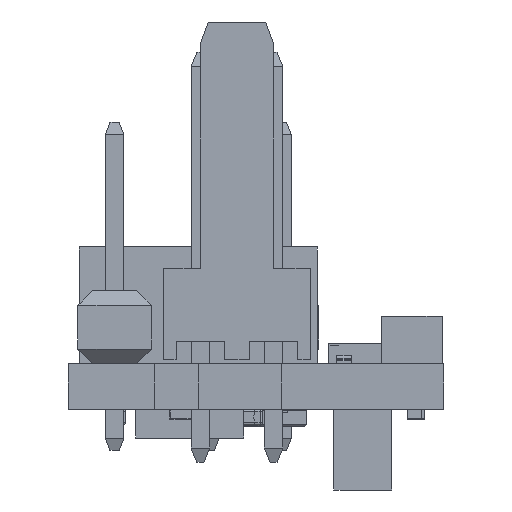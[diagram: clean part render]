
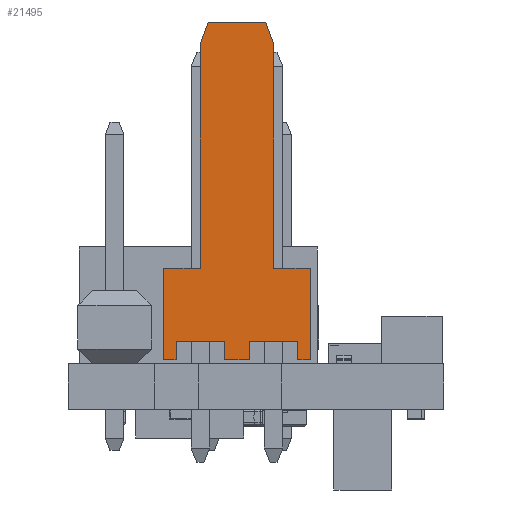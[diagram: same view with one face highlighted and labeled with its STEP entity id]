
A CAD part, left-side view. The second image highlights one B-rep face of the part: STEP entity #21495.
In plain terms, the highlighted planar face has unit normal (-1, 0, 0) as drawn and (0, -1, 0) by its records, which use the part's own axes.
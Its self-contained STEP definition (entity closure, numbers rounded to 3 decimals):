
#1213=PLANE('',#23291);
#2222=FACE_OUTER_BOUND('',#3688,.T.);
#3688=EDGE_LOOP('',(#16371,#16372,#16373,#16374,#16375,#16376,#16377,#16378,
#16379,#16380,#16381,#16382,#16383,#16384,#16385,#16386,#16387,#16388));
#5050=LINE('',#32688,#7144);
#5064=LINE('',#32716,#7158);
#5067=LINE('',#32721,#7161);
#5069=LINE('',#32725,#7163);
#5075=LINE('',#32738,#7169);
#5077=LINE('',#32742,#7171);
#5079=LINE('',#32746,#7173);
#5085=LINE('',#32757,#7179);
#5086=LINE('',#32759,#7180);
#5087=LINE('',#32761,#7181);
#5088=LINE('',#32763,#7182);
#5089=LINE('',#32765,#7183);
#5090=LINE('',#32767,#7184);
#5091=LINE('',#32769,#7185);
#5092=LINE('',#32771,#7186);
#5093=LINE('',#32772,#7187);
#5094=LINE('',#32774,#7188);
#5095=LINE('',#32775,#7189);
#7144=VECTOR('',#26505,3.16);
#7158=VECTOR('',#26523,0.64);
#7161=VECTOR('',#26528,0.43);
#7163=VECTOR('',#26532,0.86);
#7169=VECTOR('',#26540,0.43);
#7171=VECTOR('',#26544,0.64);
#7173=VECTOR('',#26548,1.68);
#7179=VECTOR('',#26556,0.64);
#7180=VECTOR('',#26557,1.27);
#7181=VECTOR('',#26558,7.79);
#7182=VECTOR('',#26559,0.798);
#7183=VECTOR('',#26560,1.994);
#7184=VECTOR('',#26561,0.798);
#7185=VECTOR('',#26562,7.79);
#7186=VECTOR('',#26563,1.27);
#7187=VECTOR('',#26564,3.16);
#7188=VECTOR('',#26565,0.64);
#7189=VECTOR('',#26566,1.68);
#9940=VERTEX_POINT('',#32685);
#9941=VERTEX_POINT('',#32687);
#9952=VERTEX_POINT('',#32713);
#9953=VERTEX_POINT('',#32715);
#9954=VERTEX_POINT('',#32719);
#9955=VERTEX_POINT('',#32723);
#9960=VERTEX_POINT('',#32735);
#9961=VERTEX_POINT('',#32737);
#9962=VERTEX_POINT('',#32741);
#9963=VERTEX_POINT('',#32745);
#9968=VERTEX_POINT('',#32758);
#9969=VERTEX_POINT('',#32760);
#9970=VERTEX_POINT('',#32762);
#9971=VERTEX_POINT('',#32764);
#9972=VERTEX_POINT('',#32766);
#9973=VERTEX_POINT('',#32768);
#9974=VERTEX_POINT('',#32770);
#9975=VERTEX_POINT('',#32773);
#12218=EDGE_CURVE('',#9941,#9940,#5050,.T.);
#12232=EDGE_CURVE('',#9952,#9953,#5064,.T.);
#12235=EDGE_CURVE('',#9941,#9954,#5067,.T.);
#12237=EDGE_CURVE('',#9955,#9952,#5069,.T.);
#12243=EDGE_CURVE('',#9960,#9961,#5075,.T.);
#12245=EDGE_CURVE('',#9954,#9962,#5077,.T.);
#12247=EDGE_CURVE('',#9963,#9962,#5079,.T.);
#12253=EDGE_CURVE('',#9955,#9963,#5085,.T.);
#12254=EDGE_CURVE('',#9940,#9968,#5086,.T.);
#12255=EDGE_CURVE('',#9968,#9969,#5087,.T.);
#12256=EDGE_CURVE('',#9969,#9970,#5088,.T.);
#12257=EDGE_CURVE('',#9970,#9971,#5089,.T.);
#12258=EDGE_CURVE('',#9971,#9972,#5090,.T.);
#12259=EDGE_CURVE('',#9973,#9972,#5091,.T.);
#12260=EDGE_CURVE('',#9973,#9974,#5092,.T.);
#12261=EDGE_CURVE('',#9961,#9974,#5093,.T.);
#12262=EDGE_CURVE('',#9960,#9975,#5094,.T.);
#12263=EDGE_CURVE('',#9975,#9953,#5095,.T.);
#16371=ORIENTED_EDGE('',*,*,#12232,.F.);
#16372=ORIENTED_EDGE('',*,*,#12237,.F.);
#16373=ORIENTED_EDGE('',*,*,#12253,.T.);
#16374=ORIENTED_EDGE('',*,*,#12247,.T.);
#16375=ORIENTED_EDGE('',*,*,#12245,.F.);
#16376=ORIENTED_EDGE('',*,*,#12235,.F.);
#16377=ORIENTED_EDGE('',*,*,#12218,.T.);
#16378=ORIENTED_EDGE('',*,*,#12254,.T.);
#16379=ORIENTED_EDGE('',*,*,#12255,.T.);
#16380=ORIENTED_EDGE('',*,*,#12256,.T.);
#16381=ORIENTED_EDGE('',*,*,#12257,.T.);
#16382=ORIENTED_EDGE('',*,*,#12258,.T.);
#16383=ORIENTED_EDGE('',*,*,#12259,.F.);
#16384=ORIENTED_EDGE('',*,*,#12260,.T.);
#16385=ORIENTED_EDGE('',*,*,#12261,.F.);
#16386=ORIENTED_EDGE('',*,*,#12243,.F.);
#16387=ORIENTED_EDGE('',*,*,#12262,.T.);
#16388=ORIENTED_EDGE('',*,*,#12263,.T.);
#21495=ADVANCED_FACE('',(#2222),#1213,.T.);
#23291=AXIS2_PLACEMENT_3D('',#32756,#26554,#26555);
#26505=DIRECTION('',(0.,0.,1.));
#26523=DIRECTION('',(0.,0.,1.));
#26528=DIRECTION('',(-1.,0.,0.));
#26532=DIRECTION('',(-1.,0.,0.));
#26540=DIRECTION('',(-1.,0.,0.));
#26544=DIRECTION('',(0.,0.,1.));
#26548=DIRECTION('',(1.,0.,0.));
#26554=DIRECTION('center_axis',(0.,-1.,0.));
#26555=DIRECTION('ref_axis',(0.,0.,
1.));
#26556=DIRECTION('',(0.,0.,1.));
#26557=DIRECTION('',(-1.,0.,0.));
#26558=DIRECTION('',(0.,0.,1.));
#26559=DIRECTION('',(-0.342,0.,0.94));
#26560=DIRECTION('',(-1.,0.,0.));
#26561=DIRECTION('',(-0.342,0.,-0.94));
#26562=DIRECTION('',(0.,0.,1.));
#26563=DIRECTION('',(-1.,0.,0.));
#26564=DIRECTION('',(0.,0.,1.));
#26565=DIRECTION('',(0.,0.,1.));
#26566=DIRECTION('',(1.,0.,0.));
#32685=CARTESIAN_POINT('',(3.78,-2.9,3.305));
#32687=CARTESIAN_POINT('',(3.78,-2.9,0.145));
#32688=CARTESIAN_POINT('',(3.78,-2.9,0.145));
#32713=CARTESIAN_POINT('',(0.81,-2.9,0.145));
#32715=CARTESIAN_POINT('',(0.81,-2.9,0.785));
#32716=CARTESIAN_POINT('',(0.81,-2.9,0.145));
#32719=CARTESIAN_POINT('',(3.35,-2.9,0.145));
#32721=CARTESIAN_POINT('',(3.78,-2.9,0.145));
#32723=CARTESIAN_POINT('',(1.67,-2.9,0.145));
#32725=CARTESIAN_POINT('',(1.67,-2.9,0.145));
#32735=CARTESIAN_POINT('',(-0.87,-2.9,0.145));
#32737=CARTESIAN_POINT('',(-1.3,-2.9,0.145));
#32738=CARTESIAN_POINT('',(-0.87,-2.9,0.145));
#32741=CARTESIAN_POINT('',(3.35,-2.9,0.785));
#32742=CARTESIAN_POINT('',(3.35,-2.9,0.145));
#32745=CARTESIAN_POINT('',(1.67,-2.9,0.785));
#32746=CARTESIAN_POINT('',(1.67,-2.9,0.785));
#32756=CARTESIAN_POINT('Origin',(3.78,-2.9,0.145));
#32757=CARTESIAN_POINT('',(1.67,-2.9,0.145));
#32758=CARTESIAN_POINT('',(2.51,-2.9,3.305));
#32759=CARTESIAN_POINT('',(3.78,-2.9,3.305));
#32760=CARTESIAN_POINT('',(2.51,-2.9,11.095));
#32761=CARTESIAN_POINT('',(2.51,-2.9,3.305));
#32762=CARTESIAN_POINT('',(2.237,-2.9,11.845));
#32763=CARTESIAN_POINT('',(2.51,-2.9,11.095));
#32764=CARTESIAN_POINT('',(0.243,-2.9,11.845));
#32765=CARTESIAN_POINT('',(2.237,-2.9,11.845));
#32766=CARTESIAN_POINT('',(-0.03,-2.9,11.095));
#32767=CARTESIAN_POINT('',(0.243,-2.9,11.845));
#32768=CARTESIAN_POINT('',(-0.03,-2.9,3.305));
#32769=CARTESIAN_POINT('',(-0.03,-2.9,3.305));
#32770=CARTESIAN_POINT('',(-1.3,-2.9,3.305));
#32771=CARTESIAN_POINT('',(-0.03,-2.9,3.305));
#32772=CARTESIAN_POINT('',(-1.3,-2.9,0.145));
#32773=CARTESIAN_POINT('',(-0.87,-2.9,0.785));
#32774=CARTESIAN_POINT('',(-0.87,-2.9,0.145));
#32775=CARTESIAN_POINT('',(-0.87,-2.9,0.785));
